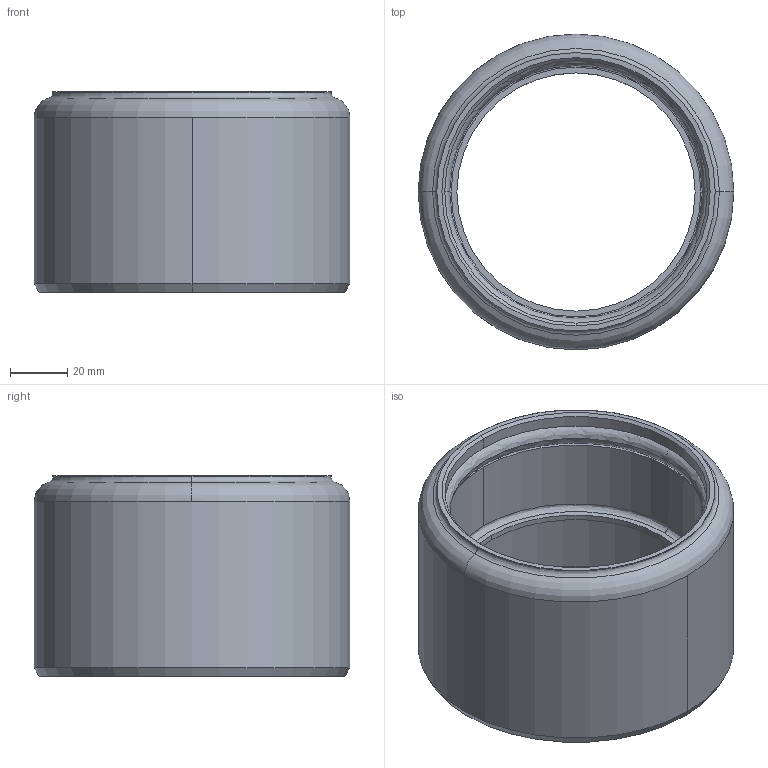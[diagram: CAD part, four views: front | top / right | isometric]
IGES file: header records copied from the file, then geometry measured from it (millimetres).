
Start section: Data from XPlus IGES,  Spatial Corp. Copyright (c) 1999-2004
Global section: file name: 152465.igs; native system:  By Spatial Corp.; preprocessor: XPlus ACIS/IGES 3.0; author: Noname; organization: Noname; date: 20210802.114329; units: millimetre
Bounding box: 110 x 110 x 70 mm (x, y, z)
Surface area: 76553.4 mm2 (no closed solid volume)
Topology: 0 solids, 0 shells, 45 faces, 216 edges, 216 vertices
Faces by surface type: revolution 38, extrusion 7
